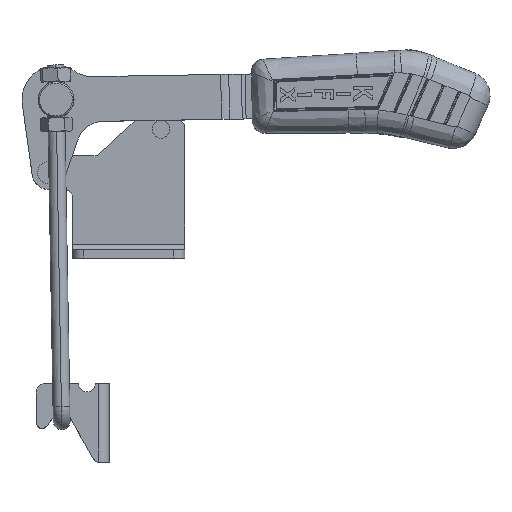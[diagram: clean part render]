
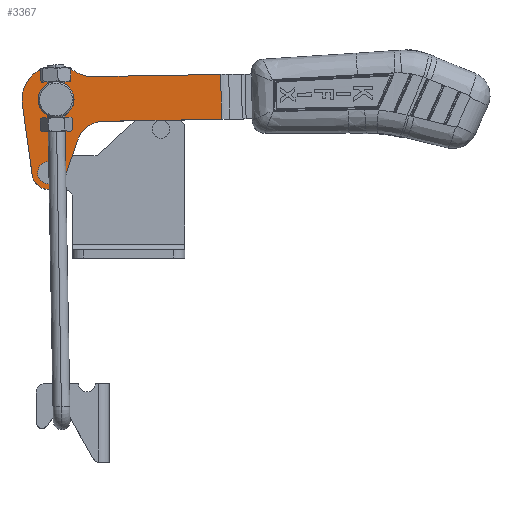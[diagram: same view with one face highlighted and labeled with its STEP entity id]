
A CAD part, top view. The second image highlights one B-rep face of the part: STEP entity #3367.
In plain terms, the highlighted planar face has unit normal (0, 0, 1).
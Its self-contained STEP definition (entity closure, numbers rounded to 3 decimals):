
#49 = LINE ( 'NONE', #18647, #9155 ) ;
#163 = DIRECTION ( 'NONE',  ( 1., 0., 0. ) ) ;
#528 = EDGE_CURVE ( 'NONE', #20246, #1148, #669, .T. ) ;
#607 = DIRECTION ( 'NONE',  ( -1., 0., 0. ) ) ;
#669 = CIRCLE ( 'NONE', #10713, 3.2 ) ;
#801 = DIRECTION ( 'NONE',  ( 1., 0., 0. ) ) ;
#1080 = VECTOR ( 'NONE', #3515, 1000. ) ;
#1094 = EDGE_CURVE ( 'NONE', #18682, #8076, #18256, .T. ) ;
#1148 = VERTEX_POINT ( 'NONE', #8046 ) ;
#1251 = ORIENTED_EDGE ( 'NONE', *, *, #16246, .F. ) ;
#1258 = DIRECTION ( 'NONE',  ( 0., 0., 1. ) ) ;
#1324 = ORIENTED_EDGE ( 'NONE', *, *, #14689, .F. ) ;
#1588 = CARTESIAN_POINT ( 'NONE',  ( -117.807, -26.747, 0. ) ) ;
#1959 = EDGE_CURVE ( 'NONE', #5317, #3909, #21315, .T. ) ;
#2188 = ORIENTED_EDGE ( 'NONE', *, *, #7024, .T. ) ;
#2447 = AXIS2_PLACEMENT_3D ( 'NONE', #2544, #11682, #801 ) ;
#2449 = CARTESIAN_POINT ( 'NONE',  ( -115.052, -26.016, 0. ) ) ;
#2536 = LINE ( 'NONE', #15031, #11071 ) ;
#2544 = CARTESIAN_POINT ( 'NONE',  ( 0., 0., 0. ) ) ;
#2580 = EDGE_CURVE ( 'NONE', #3909, #18682, #49, .T. ) ;
#3097 = CARTESIAN_POINT ( 'NONE',  ( -117.807, -26.747, 0. ) ) ;
#3101 = DIRECTION ( 'NONE',  ( 0., 0., 1. ) ) ;
#3266 = AXIS2_PLACEMENT_3D ( 'NONE', #13958, #3101, #15787 ) ;
#3337 = EDGE_CURVE ( 'NONE', #13369, #5317, #22957, .T. ) ;
#3367 = ADVANCED_FACE ( 'NONE', ( #18191, #12810, #8566 ), #20667, .T. ) ;
#3394 = EDGE_LOOP ( 'NONE', ( #1251, #1324 ) ) ;
#3515 = DIRECTION ( 'NONE',  ( 0.122, -0.993, 0. ) ) ;
#3909 = VERTEX_POINT ( 'NONE', #9001 ) ;
#4330 = CARTESIAN_POINT ( 'NONE',  ( -92.016, -18., 0. ) ) ;
#5191 = ORIENTED_EDGE ( 'NONE', *, *, #19890, .F. ) ;
#5317 = VERTEX_POINT ( 'NONE', #14633 ) ;
#5418 = CARTESIAN_POINT ( 'NONE',  ( -101.437, -14.647, 0. ) ) ;
#5694 = DIRECTION ( 'NONE',  ( 0., 0., 1. ) ) ;
#5792 = ORIENTED_EDGE ( 'NONE', *, *, #5837, .T. ) ;
#5837 = EDGE_CURVE ( 'NONE', #21583, #13369, #2536, .T. ) ;
#6145 = DIRECTION ( 'NONE',  ( 1., 0., 0. ) ) ;
#6232 = ORIENTED_EDGE ( 'NONE', *, *, #1094, .T. ) ;
#6523 = CIRCLE ( 'NONE', #19697, 3.2 ) ;
#7024 = EDGE_CURVE ( 'NONE', #16316, #14929, #10179, .T. ) ;
#7116 = EDGE_CURVE ( 'NONE', #14929, #21583, #13858, .T. ) ;
#7396 = DIRECTION ( 'NONE',  ( 0., 0., 1. ) ) ;
#8046 = CARTESIAN_POINT ( 'NONE',  ( -108.652, -26.016, 0. ) ) ;
#8076 = VERTEX_POINT ( 'NONE', #19487 ) ;
#8096 = CARTESIAN_POINT ( 'NONE',  ( -101.786, 9.866, 0. ) ) ;
#8146 = ORIENTED_EDGE ( 'NONE', *, *, #7116, .T. ) ;
#8413 = AXIS2_PLACEMENT_3D ( 'NONE', #21836, #11032, #163 ) ;
#8566 = FACE_OUTER_BOUND ( 'NONE', #12321, .T. ) ;
#8710 = ORIENTED_EDGE ( 'NONE', *, *, #528, .F. ) ;
#9001 = CARTESIAN_POINT ( 'NONE',  ( -50., -8., 0. ) ) ;
#9049 = DIRECTION ( 'NONE',  ( 0., 0., -1. ) ) ;
#9155 = VECTOR ( 'NONE', #22394, 1000. ) ;
#9521 = DIRECTION ( 'NONE',  ( 1., 0., 0. ) ) ;
#9766 = VECTOR ( 'NONE', #607, 1000. ) ;
#9838 = AXIS2_PLACEMENT_3D ( 'NONE', #19863, #9049, #21668 ) ;
#10179 = LINE ( 'NONE', #1588, #1080 ) ;
#10326 = CIRCLE ( 'NONE', #3266, 6.4 ) ;
#10610 = CARTESIAN_POINT ( 'NONE',  ( -111.852, -26.016, 0. ) ) ;
#10713 = AXIS2_PLACEMENT_3D ( 'NONE', #16554, #5694, #18365 ) ;
#10823 = CIRCLE ( 'NONE', #9838, 10. ) ;
#11032 = DIRECTION ( 'NONE',  ( 0., 0., 1. ) ) ;
#11071 = VECTOR ( 'NONE', #13209, 1000. ) ;
#11475 = CARTESIAN_POINT ( 'NONE',  ( 0., 8., 0. ) ) ;
#11682 = DIRECTION ( 'NONE',  ( 0., 0., 1. ) ) ;
#12059 = AXIS2_PLACEMENT_3D ( 'NONE', #12139, #1258, #13955 ) ;
#12139 = CARTESIAN_POINT ( 'NONE',  ( -108.852, -0.016, 0. ) ) ;
#12321 = EDGE_LOOP ( 'NONE', ( #18196, #17772, #6232, #15175, #18195, #2188, #8146, #5792, #23194 ) ) ;
#12375 = CARTESIAN_POINT ( 'NONE',  ( -120.909, -1.497, 0. ) ) ;
#12425 = CARTESIAN_POINT ( 'NONE',  ( -50., 8., 0. ) ) ;
#12429 = DIRECTION ( 'NONE',  ( 1., 0., 0. ) ) ;
#12528 = VERTEX_POINT ( 'NONE', #21728 ) ;
#12810 = FACE_BOUND ( 'NONE', #13785, .T. ) ;
#13209 = DIRECTION ( 'NONE',  ( 0.335, 0.942, 0. ) ) ;
#13369 = VERTEX_POINT ( 'NONE', #5418 ) ;
#13785 = EDGE_LOOP ( 'NONE', ( #5191, #8710 ) ) ;
#13858 = CIRCLE ( 'NONE', #19242, 6. ) ;
#13955 = DIRECTION ( 'NONE',  ( 1., 0., 0. ) ) ;
#13958 = CARTESIAN_POINT ( 'NONE',  ( -108.852, -0.016, 0. ) ) ;
#14373 = VERTEX_POINT ( 'NONE', #15181 ) ;
#14633 = CARTESIAN_POINT ( 'NONE',  ( -92.016, -8., 0. ) ) ;
#14689 = EDGE_CURVE ( 'NONE', #14373, #12528, #22458, .T. ) ;
#14866 = CIRCLE ( 'NONE', #12059, 12.148 ) ;
#14894 = CARTESIAN_POINT ( 'NONE',  ( 0., -8., 0. ) ) ;
#14898 = EDGE_CURVE ( 'NONE', #17485, #16316, #14866, .T. ) ;
#14929 = VERTEX_POINT ( 'NONE', #3097 ) ;
#15031 = CARTESIAN_POINT ( 'NONE',  ( -106.2, -28.028, 0. ) ) ;
#15175 = ORIENTED_EDGE ( 'NONE', *, *, #18290, .T. ) ;
#15181 = CARTESIAN_POINT ( 'NONE',  ( -115.252, -0.016, 0. ) ) ;
#15787 = DIRECTION ( 'NONE',  ( 1., 0., 0. ) ) ;
#16246 = EDGE_CURVE ( 'NONE', #12528, #14373, #10326, .T. ) ;
#16316 = VERTEX_POINT ( 'NONE', #12375 ) ;
#16548 = VECTOR ( 'NONE', #9521, 1000. ) ;
#16554 = CARTESIAN_POINT ( 'NONE',  ( -111.852, -26.016, 0. ) ) ;
#17006 = DIRECTION ( 'NONE',  ( 0., 0., -1. ) ) ;
#17485 = VERTEX_POINT ( 'NONE', #8096 ) ;
#17772 = ORIENTED_EDGE ( 'NONE', *, *, #2580, .T. ) ;
#18191 = FACE_BOUND ( 'NONE', #3394, .T. ) ;
#18195 = ORIENTED_EDGE ( 'NONE', *, *, #14898, .T. ) ;
#18196 = ORIENTED_EDGE ( 'NONE', *, *, #1959, .T. ) ;
#18245 = CARTESIAN_POINT ( 'NONE',  ( -111.852, -26.016, 0. ) ) ;
#18256 = LINE ( 'NONE', #11475, #9766 ) ;
#18290 = EDGE_CURVE ( 'NONE', #8076, #17485, #10823, .T. ) ;
#18365 = DIRECTION ( 'NONE',  ( 1., 0., 0. ) ) ;
#18647 = CARTESIAN_POINT ( 'NONE',  ( -50., 0., 0. ) ) ;
#18682 = VERTEX_POINT ( 'NONE', #12425 ) ;
#19242 = AXIS2_PLACEMENT_3D ( 'NONE', #18245, #7396, #20046 ) ;
#19487 = CARTESIAN_POINT ( 'NONE',  ( -95.97, 8., 0. ) ) ;
#19697 = AXIS2_PLACEMENT_3D ( 'NONE', #10610, #23211, #12429 ) ;
#19863 = CARTESIAN_POINT ( 'NONE',  ( -95.97, 18., 0. ) ) ;
#19888 = AXIS2_PLACEMENT_3D ( 'NONE', #4330, #17006, #6145 ) ;
#19890 = EDGE_CURVE ( 'NONE', #1148, #20246, #6523, .T. ) ;
#20046 = DIRECTION ( 'NONE',  ( 1., 0., 0. ) ) ;
#20246 = VERTEX_POINT ( 'NONE', #2449 ) ;
#20667 = PLANE ( 'NONE',  #2447 ) ;
#21139 = CARTESIAN_POINT ( 'NONE',  ( -106.2, -28.028, 0. ) ) ;
#21315 = LINE ( 'NONE', #14894, #16548 ) ;
#21583 = VERTEX_POINT ( 'NONE', #21139 ) ;
#21668 = DIRECTION ( 'NONE',  ( 1., 0., 0. ) ) ;
#21728 = CARTESIAN_POINT ( 'NONE',  ( -102.452, -0.016, 0. ) ) ;
#21836 = CARTESIAN_POINT ( 'NONE',  ( -108.852, -0.016, 0. ) ) ;
#22394 = DIRECTION ( 'NONE',  ( 0., 1., 0. ) ) ;
#22458 = CIRCLE ( 'NONE', #8413, 6.4 ) ;
#22957 = CIRCLE ( 'NONE', #19888, 10. ) ;
#23194 = ORIENTED_EDGE ( 'NONE', *, *, #3337, .T. ) ;
#23211 = DIRECTION ( 'NONE',  ( 0., 0., 1. ) ) ;
